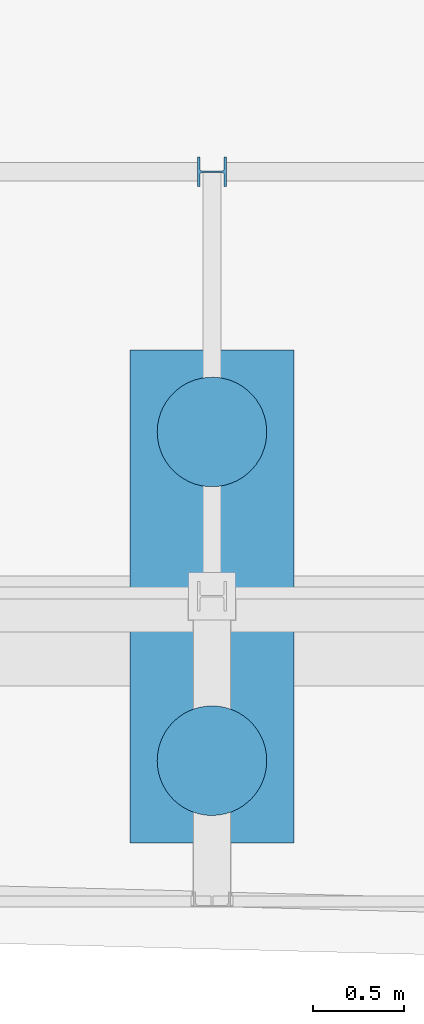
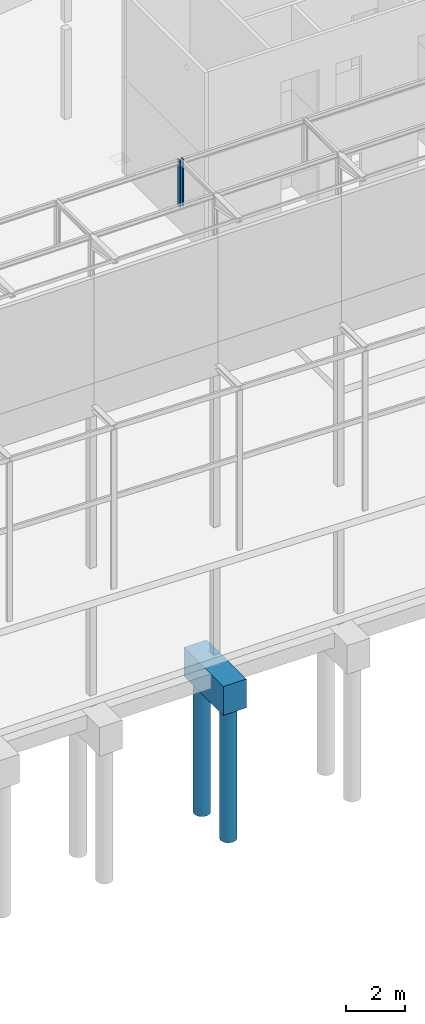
# One storey, part 37 of 82: 4 columns.
"""IFC2X3 building model written with IfcOpenShell, lengths in millimetres."""

from ifc_helpers import new_model, si_unit, frame, frame_2d, origin_with_axes, place, context, subcontext, project, spatial, rectangle, circle, i_section, extrude, material, type_object, element, save


model = new_model("IFC2X3")

# Units and contexts
model_context = context("Model", 3, precision=1e-05, world=origin_with_axes())
body_context = subcontext(model_context, "Body", "Model", "MODEL_VIEW")
ifc_project = project(units=[si_unit("LENGTHUNIT", "METRE", prefix="MILLI"), si_unit("AREAUNIT", "SQUARE_METRE"), si_unit("VOLUMEUNIT", "CUBIC_METRE"), si_unit("MASSUNIT", "GRAM", prefix="KILO"), si_unit("TIMEUNIT", "SECOND"), si_unit("PLANEANGLEUNIT", "RADIAN"), si_unit("SOLIDANGLEUNIT", "STERADIAN"), si_unit("THERMODYNAMICTEMPERATUREUNIT", "DEGREE_CELSIUS"), si_unit("LUMINOUSINTENSITYUNIT", "LUMEN")], contexts=[model_context])

# Site, building, storey
site_placement = place(None, origin_with_axes())
site = spatial("IfcSite", under=ifc_project, at=site_placement, Name="Undefined", CompositionType="ELEMENT")
building_placement = place(site_placement, origin_with_axes())
building = spatial("IfcBuilding", under=site, at=building_placement, Name="Undefined", CompositionType="ELEMENT")
storey_placement = place(building_placement, origin_with_axes())
storey = spatial("IfcBuildingStorey", under=building, at=storey_placement, Name="Undefined", CompositionType="ELEMENT", Elevation=0.0)

# Columns
ifc_material_1 = material(Name="STEEL/S275JR")
column_type_1 = type_object("IfcColumnType", Name="HEB160", PredefinedType="NOTDEFINED")
column_1_placement = place(storey_placement, frame((42225.0000011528, 2324.9999996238, 17160.0), z_axis=(0.0, 0.0, 1.0), x_axis=(1.0, 0.0, 0.0)))
element("IfcColumn", 1, at=column_1_placement, inside=storey, type_object=column_type_1, material=ifc_material_1, Name="POTEAU", ObjectType="HEB160", context=body_context, shape_type="SweptSolid", body=[
    extrude(i_section(OverallWidth=160.0, OverallDepth=160.0, WebThickness=8.0, FlangeThickness=13.0, FilletRadius=15.0, at=frame_2d((5.17284206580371e-08, 4.49290382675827e-10), x_axis=(1.0, 0.0))), frame((0.0, 0.0, 1965.0), z_axis=(0.0, -6.50000002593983e-08, -0.999999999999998), x_axis=(-2.77555756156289e-17, -1.0, 0.0)), (0.0, 0.0, 1.0), 1965.0),
])
ifc_material_2 = material(Name="CONCRETE/C30/37")
column_type_2 = type_object("IfcColumnType", Name="2700*900", PredefinedType="NOTDEFINED")
column_2_placement = place(storey_placement, frame((42225.0000000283, -1.63726753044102e-07, -1650.0), z_axis=(0.0, 0.0, 1.0), x_axis=(1.0, 0.0, 0.0)))
element("IfcColumn", 2, at=column_2_placement, inside=storey, type_object=column_type_2, material=ifc_material_2, Name="SEMELLE", ObjectType="2700*900", context=body_context, shape_type="SweptSolid", body=[
    extrude(rectangle(XDim=900.0, YDim=2700.0, at=frame_2d((5.17284206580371e-08, 4.49290382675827e-10), x_axis=(1.0, 0.0))), frame((0.0, 0.0, 1200.0), z_axis=(0.0, -6.50000002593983e-08, -0.999999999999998), x_axis=(-1.0, 0.0, 0.0)), (0.0, 0.0, 1.0), 1200.0),
])
ifc_material_3 = material(Name="CONCRETE/C25/30")
column_type_3 = type_object("IfcColumnType", Name="D600", PredefinedType="NOTDEFINED")
for number, where, z_axis, x_axis in (
    (3, (42225.0000000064, -900.000000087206, -7175.0), (0.0, 0.0, 1.0), (1.0, 0.0, 0.0)),
    (4, (42225.0000000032, 899.999999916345, -7175.0), (0.0, 0.0, 1.0), (1.0, 0.0, 0.0)),
):
    element("IfcColumn", number, at=place(storey_placement, frame(where, z_axis=z_axis, x_axis=x_axis)), inside=storey, type_object=column_type_3, material=ifc_material_3, Name="PIEU", ObjectType="D600", context=body_context, shape_type="SweptSolid", body=[
        extrude(circle(Radius=300.0, at=frame_2d((5.17284206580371e-08, 4.49290382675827e-10), x_axis=(1.0, 0.0))), frame((0.0, 0.0, 5750.0), z_axis=(0.0, -6.50000002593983e-08, -0.999999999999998), x_axis=(-1.0, 0.0, 0.0)), (0.0, 0.0, 1.0), 5750.0),
    ])

save(model, "model.ifc")
